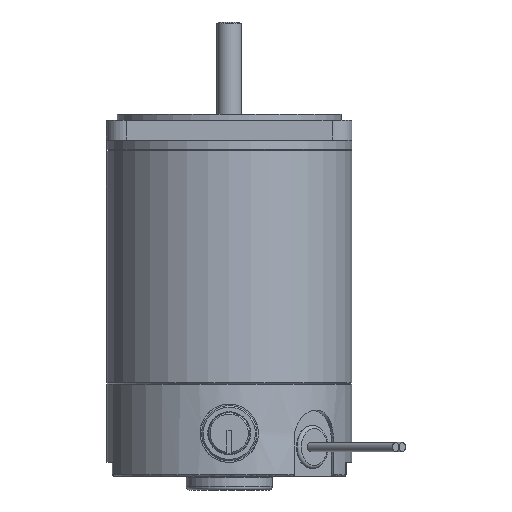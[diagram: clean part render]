
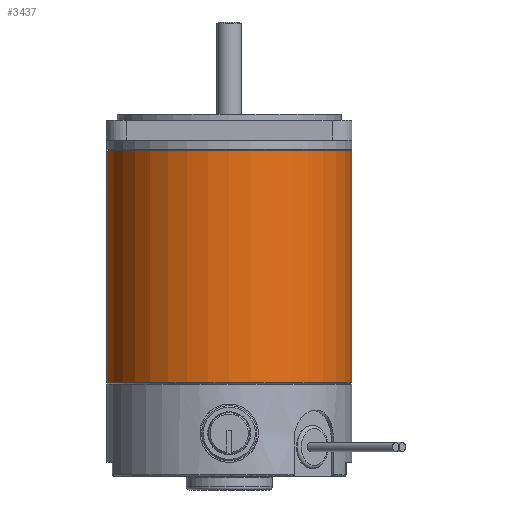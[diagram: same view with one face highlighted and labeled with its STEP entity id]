
A CAD part, front view. The second image highlights one B-rep face of the part: STEP entity #3437.
In plain terms, the highlighted cylindrical face has radius 40 mm (diameter 80 mm), a full revolution.
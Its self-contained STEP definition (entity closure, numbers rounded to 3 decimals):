
#3406=CARTESIAN_POINT('',(-40.0,0.,-79.0));
#3407=VERTEX_POINT('',#3406);
#3408=CARTESIAN_POINT('',(0.0,0.0,-79.0));
#3409=DIRECTION('',(0.0,0.0,-1.0));
#3410=DIRECTION('',(1.0,0.0,0.0));
#3411=AXIS2_PLACEMENT_3D('',#3408,#3409,#3410);
#3412=CIRCLE('',#3411,40.0);
#3413=EDGE_CURVE('',#3407,#3407,#3412,.T.);
#3418=CARTESIAN_POINT('',(0.0,0.0,-3.5));
#3419=DIRECTION('',(0.0,0.0,-1.0));
#3420=DIRECTION('',(1.0,0.0,0.0));
#3421=AXIS2_PLACEMENT_3D('',#3418,#3419,#3420);
#3422=CYLINDRICAL_SURFACE('',#3421,40.0);
#3423=CARTESIAN_POINT('',(-40.0,0.,-3.5));
#3424=VERTEX_POINT('',#3423);
#3425=CARTESIAN_POINT('',(0.0,0.0,-3.5));
#3426=DIRECTION('',(0.0,0.0,1.0));
#3427=DIRECTION('',(1.0,0.0,0.0));
#3428=AXIS2_PLACEMENT_3D('',#3425,#3426,#3427);
#3429=CIRCLE('',#3428,40.0);
#3430=EDGE_CURVE('',#3424,#3424,#3429,.T.);
#3431=ORIENTED_EDGE('',*,*,#3430,.F.);
#3432=EDGE_LOOP('',(#3431));
#3433=FACE_OUTER_BOUND('',#3432,.T.);
#3434=ORIENTED_EDGE('',*,*,#3413,.F.);
#3435=EDGE_LOOP('',(#3434));
#3436=FACE_BOUND('',#3435,.T.);
#3437=ADVANCED_FACE('',(#3433,#3436),#3422,.T.);
